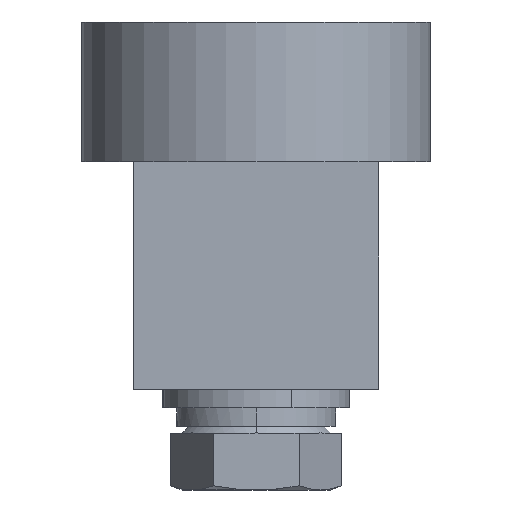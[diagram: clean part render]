
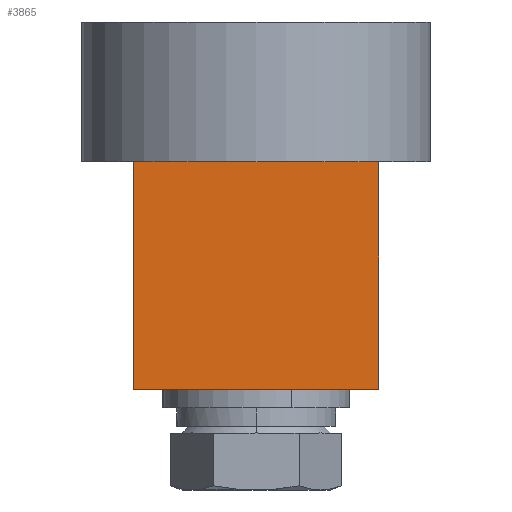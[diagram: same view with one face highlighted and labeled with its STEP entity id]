
A CAD part, left-side view. The second image highlights one B-rep face of the part: STEP entity #3865.
In plain terms, the highlighted planar face has unit normal (-1, 0, 0).
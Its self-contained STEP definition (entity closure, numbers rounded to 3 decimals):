
#559 = ORIENTED_EDGE ( 'NONE', *, *, #9388, .F. ) ;
#925 = DIRECTION ( 'NONE',  ( 0., 0., 1. ) ) ;
#1206 = CARTESIAN_POINT ( 'NONE',  ( 0., 0., 0. ) ) ;
#1565 = VERTEX_POINT ( 'NONE', #1206 ) ;
#1663 = VECTOR ( 'NONE', #925, 1000. ) ;
#1859 = VECTOR ( 'NONE', #11122, 1000. ) ;
#2485 = VECTOR ( 'NONE', #8726, 1000. ) ;
#2941 = CARTESIAN_POINT ( 'NONE',  ( 0., 21., 0. ) ) ;
#3564 = LINE ( 'NONE', #10004, #1859 ) ;
#3865 = ADVANCED_FACE ( 'NONE', ( #6916 ), #9939, .F. ) ;
#4061 = EDGE_LOOP ( 'NONE', ( #6358, #5827, #559, #9466 ) ) ;
#4777 = EDGE_CURVE ( 'NONE', #8003, #1565, #4953, .T. ) ;
#4953 = LINE ( 'NONE', #6870, #2485 ) ;
#5258 = VERTEX_POINT ( 'NONE', #8774 ) ;
#5827 = ORIENTED_EDGE ( 'NONE', *, *, #9287, .F. ) ;
#6358 = ORIENTED_EDGE ( 'NONE', *, *, #4777, .T. ) ;
#6692 = EDGE_CURVE ( 'NONE', #5258, #8003, #8688, .T. ) ;
#6713 = CARTESIAN_POINT ( 'NONE',  ( 0., 0., -19.5 ) ) ;
#6870 = CARTESIAN_POINT ( 'NONE',  ( 0., 0., 0. ) ) ;
#6916 = FACE_OUTER_BOUND ( 'NONE', #4061, .T. ) ;
#7478 = LINE ( 'NONE', #9389, #1663 ) ;
#8003 = VERTEX_POINT ( 'NONE', #6713 ) ;
#8688 = LINE ( 'NONE', #10776, #11559 ) ;
#8726 = DIRECTION ( 'NONE',  ( 0., 0., 1. ) ) ;
#8774 = CARTESIAN_POINT ( 'NONE',  ( 0., 21., -19.5 ) ) ;
#8775 = DIRECTION ( 'NONE',  ( 1., 0., 0. ) ) ;
#8989 = DIRECTION ( 'NONE',  ( 0., -1., 0. ) ) ;
#9287 = EDGE_CURVE ( 'NONE', #11668, #1565, #3564, .T. ) ;
#9388 = EDGE_CURVE ( 'NONE', #5258, #11668, #7478, .T. ) ;
#9389 = CARTESIAN_POINT ( 'NONE',  ( 0., 21., 0. ) ) ;
#9427 = AXIS2_PLACEMENT_3D ( 'NONE', #10681, #8775, #9752 ) ;
#9466 = ORIENTED_EDGE ( 'NONE', *, *, #6692, .T. ) ;
#9752 = DIRECTION ( 'NONE',  ( 0., 0., -1. ) ) ;
#9939 = PLANE ( 'NONE',  #9427 ) ;
#10004 = CARTESIAN_POINT ( 'NONE',  ( 0., 21., 0. ) ) ;
#10681 = CARTESIAN_POINT ( 'NONE',  ( 0., 21., 0. ) ) ;
#10776 = CARTESIAN_POINT ( 'NONE',  ( 0., 21., -19.5 ) ) ;
#11122 = DIRECTION ( 'NONE',  ( 0., -1., 0. ) ) ;
#11559 = VECTOR ( 'NONE', #8989, 1000. ) ;
#11668 = VERTEX_POINT ( 'NONE', #2941 ) ;
